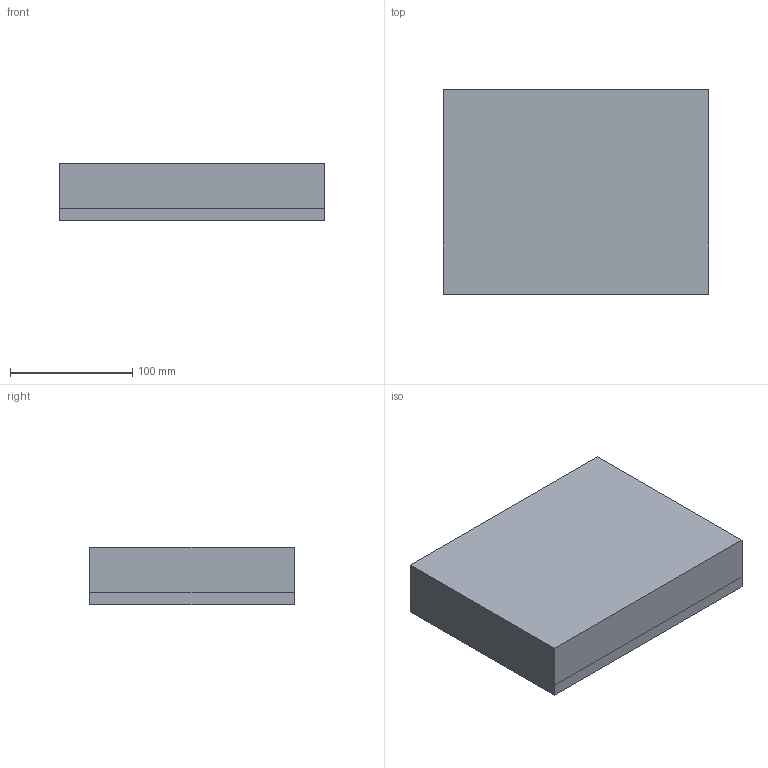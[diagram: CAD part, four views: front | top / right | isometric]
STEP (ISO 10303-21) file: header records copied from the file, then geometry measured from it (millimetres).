
FILE_DESCRIPTION(('CATIA V5 STEP Exchange'),'2;1');
FILE_NAME('C:\_Andres\UNIVERSIDAD\IQS\ASIGNATURAS\DAO\Controles\1920\c2\c2-Pons_Romances_Ignasi.stp','2020-02-10T15:38:29+00:00',('none'),('none'),'CATIA Version 5 Release 19 SP 3 (IN-10)','CATIA V5 STEP AP203','none');
FILE_SCHEMA(('CONFIG_CONTROL_DESIGN'));
Length unit declared in the file: millimetre
Products named in the file (1): c2-Pons_Romances_Ignasi
Bounding box: 217 x 167 x 47 mm (x, y, z)
Surface area: 273488.3 mm2
Topology: 3 solids, 3 shells, 103 faces, 232 edges, 128 vertices
Faces by surface type: cylinder 40, plane 27, bspline 24, sphere 12
Entity records: 3348 total; most frequent: CARTESIAN_POINT 1636, ORIENTED_EDGE 440, DIRECTION 224, EDGE_CURVE 164, EDGE_LOOP 110, ADVANCED_FACE 103, FACE_OUTER_BOUND 103, AXIS2_PLACEMENT_3D 96
